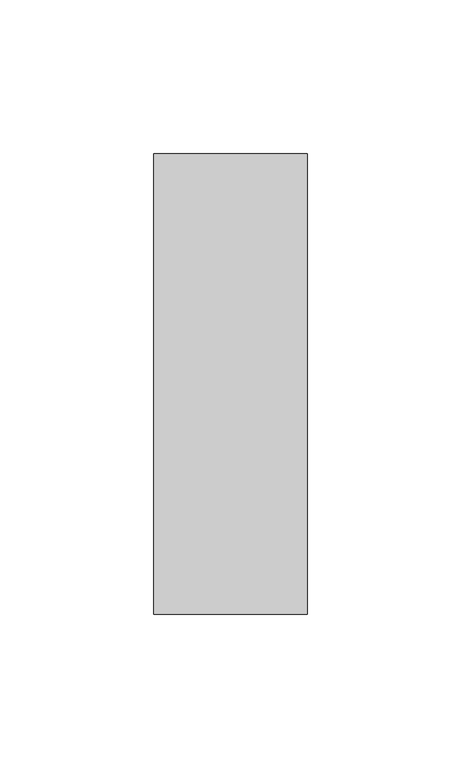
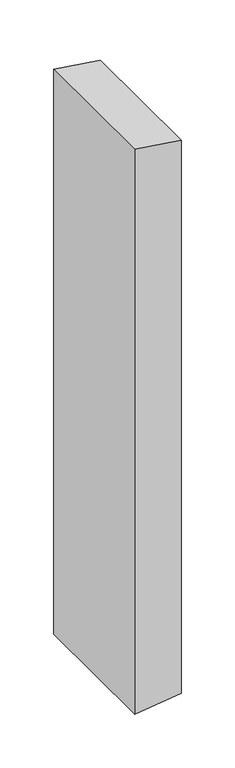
"""IFC4 building model written with IfcOpenShell, lengths in millimetres: member geometry, Прямоугольный импост : 50 x 150 мм."""

from ifc_helpers import new_model, si_unit, frame, origin, place, context, project, spatial, polyline, outline, extrude, source, transform, mapped, element, save


def member_d31f014b(model_context):
    return source(origin(), model_context, "Body", "SweptSolid", [
        extrude(outline(polyline([(0.0, 0.0), (7.2477572, -50.0), (-633.4766244, -50.0), (-627.1884517, 0.0), (0.0, 0.0)])), frame((0.0, -75.0, 0.0), z_axis=(0.0, 1.0, 0.0), x_axis=(0.0, 0.0, 1.0)), (0.0, 0.0, 1.0), 150.0),
    ])


if __name__ == "__main__":
    model = new_model("IFC4")
    model_context = context("Model", 3, world=origin())
    ifc_project = project(units=[si_unit("LENGTHUNIT", "METRE", prefix="MILLI")], contexts=[model_context])
    site = spatial("IfcSite", under=ifc_project)
    building = spatial("IfcBuilding", under=site)
    placement = place(None, origin())
    member_shape = member_d31f014b(model_context)
    element("IfcMember", 1, ObjectType="Прямоугольный импост : 50 x 150 мм", at=placement, inside=building, context=model_context, shape_type="MappedRepresentation", body=[
        mapped(member_shape, transform((0.0, 0.0, 0.0), x_axis=(1.0, 0.0, 0.0), y_axis=(0.0, 1.0, 0.0), z_axis=(0.0, 0.0, 1.0))),
    ])
    save(model, "model.ifc")
